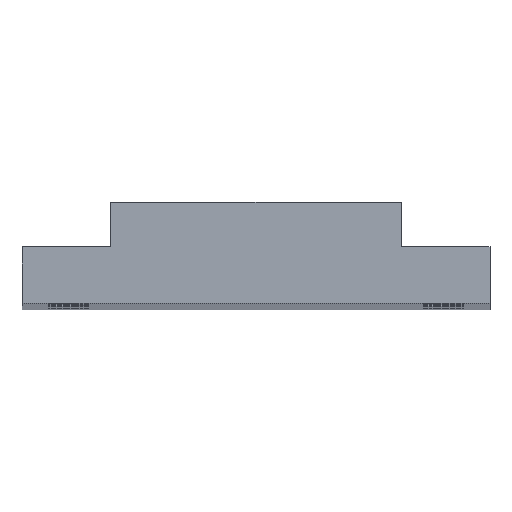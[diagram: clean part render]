
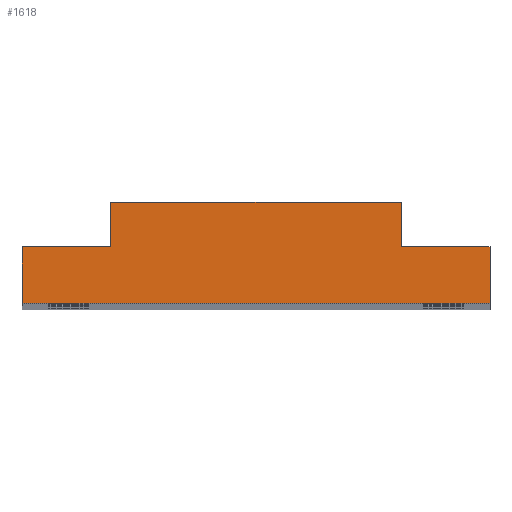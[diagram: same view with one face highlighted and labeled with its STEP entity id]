
A CAD part, top view. The second image highlights one B-rep face of the part: STEP entity #1618.
In plain terms, the highlighted planar face has unit normal (0, 0, 1).
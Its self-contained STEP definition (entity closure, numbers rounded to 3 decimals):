
#88 = ORIENTED_EDGE ( 'NONE', *, *, #2269, .F. ) ;
#94 = CARTESIAN_POINT ( 'NONE',  ( 25., 3., 420. ) ) ;
#161 = VECTOR ( 'NONE', #3202, 1000. ) ;
#260 = VERTEX_POINT ( 'NONE', #94 ) ;
#383 = EDGE_CURVE ( 'NONE', #1504, #1238, #1587, .T. ) ;
#489 = CARTESIAN_POINT ( 'NONE',  ( -15.5, 3., 420. ) ) ;
#524 = CARTESIAN_POINT ( 'NONE',  ( -25., 3., 420. ) ) ;
#530 = PLANE ( 'NONE',  #2418 ) ;
#549 = DIRECTION ( 'NONE',  ( 1., 0., 0. ) ) ;
#550 = VECTOR ( 'NONE', #1473, 1000. ) ;
#607 = LINE ( 'NONE', #1377, #3061 ) ;
#667 = LINE ( 'NONE', #2588, #2806 ) ;
#707 = ORIENTED_EDGE ( 'NONE', *, *, #383, .T. ) ;
#814 = CARTESIAN_POINT ( 'NONE',  ( 0., 0., 420. ) ) ;
#819 = DIRECTION ( 'NONE',  ( 1., 0., 0. ) ) ;
#870 = VERTEX_POINT ( 'NONE', #2651 ) ;
#966 = ORIENTED_EDGE ( 'NONE', *, *, #2600, .T. ) ;
#1048 = ORIENTED_EDGE ( 'NONE', *, *, #3168, .T. ) ;
#1053 = VERTEX_POINT ( 'NONE', #2665 ) ;
#1119 = VECTOR ( 'NONE', #2445, 1000. ) ;
#1238 = VERTEX_POINT ( 'NONE', #1443 ) ;
#1245 = LINE ( 'NONE', #2680, #1533 ) ;
#1333 = VERTEX_POINT ( 'NONE', #3048 ) ;
#1340 = CARTESIAN_POINT ( 'NONE',  ( 15.5, 3., 420. ) ) ;
#1352 = DIRECTION ( 'NONE',  ( 0., -1., 0. ) ) ;
#1363 = EDGE_CURVE ( 'NONE', #870, #260, #2212, .T. ) ;
#1377 = CARTESIAN_POINT ( 'NONE',  ( -25., -3., 420. ) ) ;
#1391 = CARTESIAN_POINT ( 'NONE',  ( -15.5, 3., 420. ) ) ;
#1393 = VERTEX_POINT ( 'NONE', #1737 ) ;
#1443 = CARTESIAN_POINT ( 'NONE',  ( -25., 3., 420. ) ) ;
#1473 = DIRECTION ( 'NONE',  ( 0., 1., 0. ) ) ;
#1504 = VERTEX_POINT ( 'NONE', #489 ) ;
#1507 = CARTESIAN_POINT ( 'NONE',  ( -25., 3., 420. ) ) ;
#1516 = CARTESIAN_POINT ( 'NONE',  ( 25., 3., 420. ) ) ;
#1533 = VECTOR ( 'NONE', #819, 1000. ) ;
#1587 = LINE ( 'NONE', #1507, #3138 ) ;
#1618 = ADVANCED_FACE ( 'NONE', ( #2852 ), #530, .T. ) ;
#1656 = VERTEX_POINT ( 'NONE', #1340 ) ;
#1683 = ORIENTED_EDGE ( 'NONE', *, *, #2629, .F. ) ;
#1737 = CARTESIAN_POINT ( 'NONE',  ( -25., -3., 420. ) ) ;
#1773 = LINE ( 'NONE', #1391, #1119 ) ;
#1826 = DIRECTION ( 'NONE',  ( -1., 0., 0. ) ) ;
#2077 = ORIENTED_EDGE ( 'NONE', *, *, #1363, .T. ) ;
#2090 = EDGE_LOOP ( 'NONE', ( #2077, #2157, #1683, #3277, #88, #707, #1048, #966 ) ) ;
#2135 = DIRECTION ( 'NONE',  ( 1., 0., 0. ) ) ;
#2148 = EDGE_CURVE ( 'NONE', #1333, #1053, #1245, .T. ) ;
#2157 = ORIENTED_EDGE ( 'NONE', *, *, #3076, .T. ) ;
#2212 = LINE ( 'NONE', #1516, #550 ) ;
#2269 = EDGE_CURVE ( 'NONE', #1504, #1333, #1773, .T. ) ;
#2418 = AXIS2_PLACEMENT_3D ( 'NONE', #814, #2887, #2135 ) ;
#2445 = DIRECTION ( 'NONE',  ( 0., 1., 0. ) ) ;
#2588 = CARTESIAN_POINT ( 'NONE',  ( -25., 3., 420. ) ) ;
#2600 = EDGE_CURVE ( 'NONE', #1393, #870, #607, .T. ) ;
#2629 = EDGE_CURVE ( 'NONE', #1053, #1656, #2817, .T. ) ;
#2651 = CARTESIAN_POINT ( 'NONE',  ( 25., -3., 420. ) ) ;
#2665 = CARTESIAN_POINT ( 'NONE',  ( 15.5, 7.8, 420. ) ) ;
#2680 = CARTESIAN_POINT ( 'NONE',  ( 15.5, 7.8, 420. ) ) ;
#2806 = VECTOR ( 'NONE', #1352, 1000. ) ;
#2817 = LINE ( 'NONE', #3215, #161 ) ;
#2845 = DIRECTION ( 'NONE',  ( -1., 0., 0. ) ) ;
#2852 = FACE_OUTER_BOUND ( 'NONE', #2090, .T. ) ;
#2887 = DIRECTION ( 'NONE',  ( 0., 0., 1. ) ) ;
#3048 = CARTESIAN_POINT ( 'NONE',  ( -15.5, 7.8, 420. ) ) ;
#3061 = VECTOR ( 'NONE', #549, 1000. ) ;
#3076 = EDGE_CURVE ( 'NONE', #260, #1656, #3081, .T. ) ;
#3081 = LINE ( 'NONE', #524, #3159 ) ;
#3138 = VECTOR ( 'NONE', #2845, 1000. ) ;
#3159 = VECTOR ( 'NONE', #1826, 1000. ) ;
#3168 = EDGE_CURVE ( 'NONE', #1238, #1393, #667, .T. ) ;
#3202 = DIRECTION ( 'NONE',  ( 0., -1., 0. ) ) ;
#3215 = CARTESIAN_POINT ( 'NONE',  ( 15.5, 3., 420. ) ) ;
#3277 = ORIENTED_EDGE ( 'NONE', *, *, #2148, .F. ) ;
